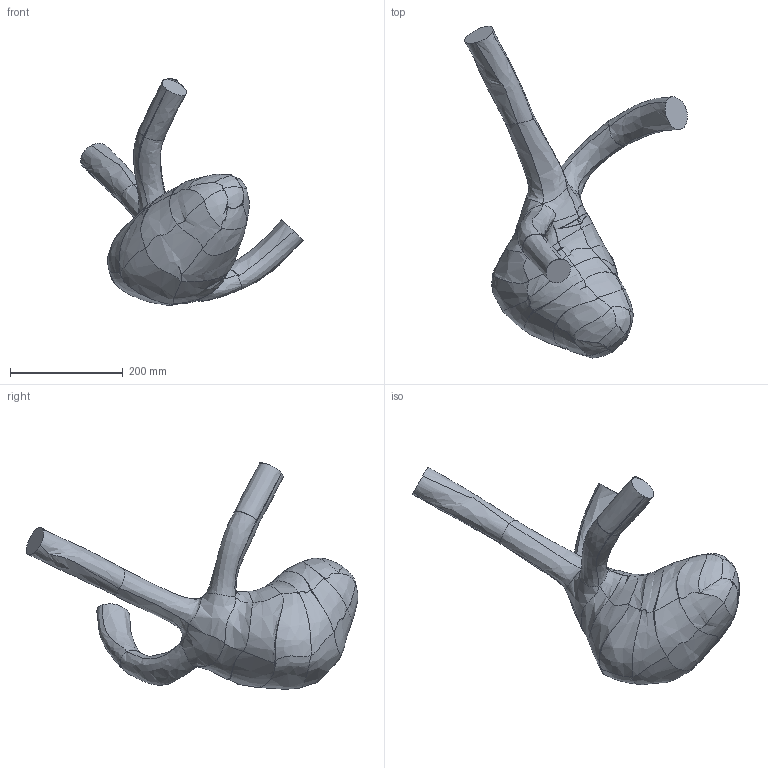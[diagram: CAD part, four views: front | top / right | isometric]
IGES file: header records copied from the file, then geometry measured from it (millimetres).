
Start section: IGES file generated by Pointwise V18.2A1 using ge-6.6.3d4
Global section: file name: C:/Users/nwyman/Development/nwyman_lando/tapestry/Aneurysm/aneurysm_case1.iges; native system: Pointwise V18.2A1; preprocessor: ge-6.6.3d4; author: Unknown; organization: Unknown; date: 20180613.084927; units: inch
Bounding box: 394.31 x 587.51 x 401.07 mm (x, y, z)
Volume: 8651578.9 mm3; surface area: 334026.8 mm2
Topology: 1 solids, 1 shells, 71 faces, 141 edges, 72 vertices
Faces by surface type: bspline 71
